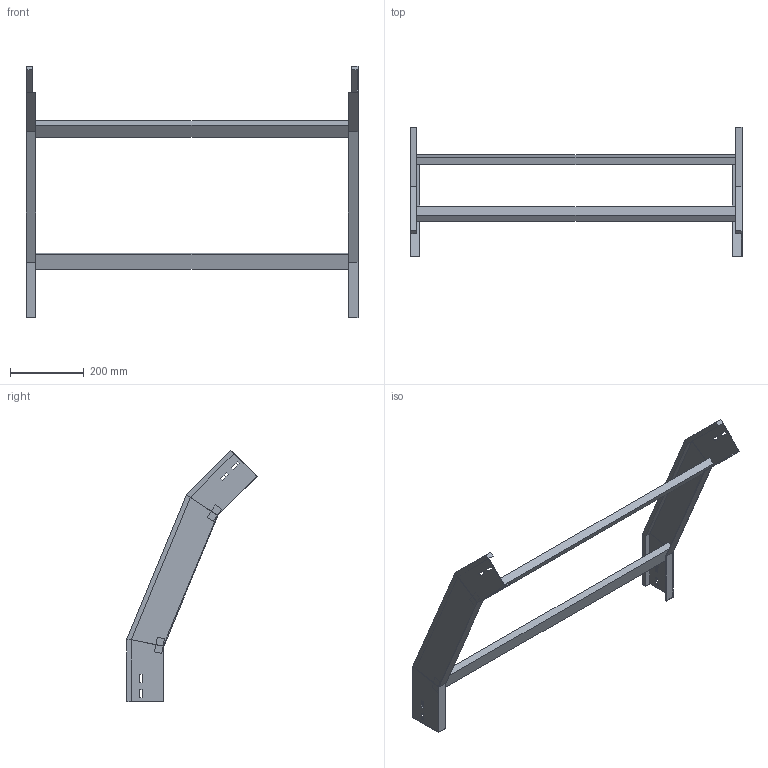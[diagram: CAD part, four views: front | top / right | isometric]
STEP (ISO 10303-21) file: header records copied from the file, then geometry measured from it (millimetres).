
FILE_DESCRIPTION (( 'STEP AP214' ), '1' );
FILE_NAME ('34B5D900.step', '2025-02-21T14:51:20', ( '' ), ( '' ), 'SwSTEP 2.0', 'SolidWorks 2023', '' );
FILE_SCHEMA (( 'AUTOMOTIVE_DESIGN' ));
Length unit declared in the file: millimetre
Products named in the file (3): 34B5D900; LONGH.DISCESA_45°_H100_R500; TRAVERSINO_900
Assembly tree (5 placements, depth 2):
  34B5D900
    LONGH.DISCESA_45°_H100_R500  x2
    TRAVERSINO_900  x3
Bounding box: 900 x 352.63 x 680.62 mm (x, y, z)
Volume: 2823300.3 mm3; surface area: 742113.4 mm2
Topology: 5 solids, 5 shells, 102 faces, 244 edges, 152 vertices
Faces by surface type: plane 102
Entity records: 1480 total; most frequent: CARTESIAN_POINT 244, ORIENTED_EDGE 232, DIRECTION 228, VECTOR 116, LINE 116, EDGE_CURVE 116, VERTEX_POINT 72, EDGE_LOOP 56
